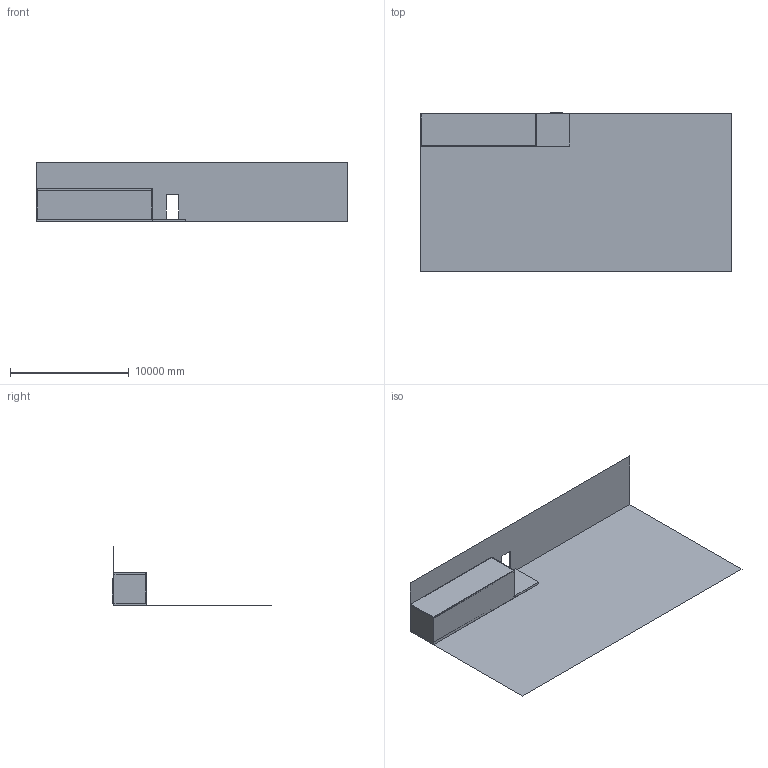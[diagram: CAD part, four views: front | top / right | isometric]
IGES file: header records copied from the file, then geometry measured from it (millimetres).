
Global section: file name: C:\Users\timo\Google Drive\SasPFC\relev; native system: Rhinoceros ( Jun 24 2014 ); preprocessor: Trout Lake IGES 012 Jun 24 2014; date: 151204.135255; units: centimetre
Bounding box: 26170.17 x 13424.99 x 5000 mm (x, y, z)
Surface area: 733954178.6 mm2 (no closed solid volume)
Topology: 0 solids, 0 shells, 36 faces, 217 edges, 222 vertices
Faces by surface type: bspline 36
